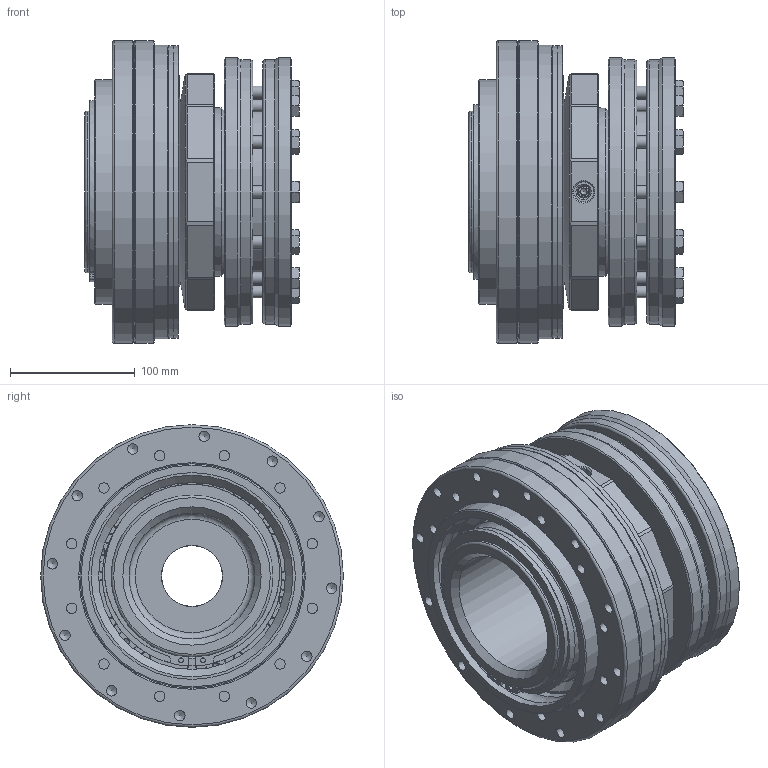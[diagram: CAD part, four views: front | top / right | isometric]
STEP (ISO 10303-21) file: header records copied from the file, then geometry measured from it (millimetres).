
FILE_DESCRIPTION(/* description */ ('Unknown','CAx-IF Rec.Pracs.---Representation and Presentation of Product Manufacturing Information (PMI)---4.0---2014-10-13','CAx-IF Rec.Pracs.---3D Tessellated Geometry---0.4---2014-09-14','2;1'),/* implementation_level */ '2;1');
FILE_NAME(/* name */ 'SKB 6000',/* time_stamp */ '2023-10-06T09:51:25+02:00',/* author */ ('Unknown'),/* organization */ ('Unknown'),/* preprocessor_version */ 'ST-DEVELOPER v18.102',/* originating_system */ 'Solid Edge',/* authorisation */ 'Unknown');
FILE_SCHEMA (('AP242_MANAGED_MODEL_BASED_3D_ENGINEERING_MIM_LF { 1 0 10303 442 1 1 4 }'));
Length unit declared in the file: millimetre
Products named in the file (1): SKB 6000
Bounding box: 172.4 x 243 x 243 mm (x, y, z)
Volume: 4366798.4 mm3; surface area: 644758.1 mm2
Topology: 1 solids, 40 shells, 959 faces, 2554 edges, 1639 vertices
Faces by surface type: plane 349, cone 266, cylinder 232, sphere 64, torus 48
Full cylindrical faces by diameter (mm): 4 x2, 6.647 x6, 6.8 x2, 8 x30, 8.376 x38, 8.5 x6, 10 x14, 10.5 x12, 14 x24, 15.6 x12, 16 x8, 49 x1, 101 x1, 126 x1, 129.8 x1, 130 x2, 130.1 x1, 133.457 x1, 135 x2, 144 x2, 144.923 x1, 150 x1, 165 x2, 166 x2, 180 x2, 185 x1, 212 x2, 215.3 x2, 234.225 x1, 236 x2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
Entity records: 25396 total; most frequent: CARTESIAN_POINT 5422, DIRECTION 4214, ORIENTED_EDGE 3516, AXIS2_PLACEMENT_3D 1892, EDGE_CURVE 1758, FACE_BOUND 1532, EDGE_LOOP 1474, VERTEX_POINT 1318
